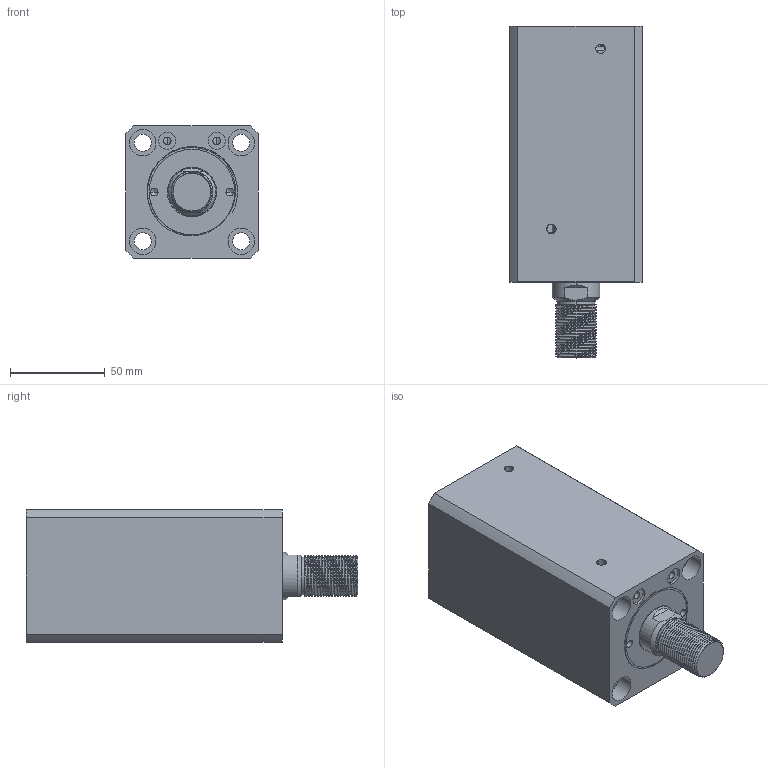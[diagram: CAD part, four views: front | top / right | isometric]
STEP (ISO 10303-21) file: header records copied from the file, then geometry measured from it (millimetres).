
FILE_DESCRIPTION (( 'STEP AP214' ), '1' );
FILE_NAME ('chtb-sdma40x80w_asm.STEP', '2018-06-06T02:20:53', ( 'Windows' ), ( 'Microsoft' ), 'SwSTEP 2.0', 'SolidWorks 2015', '' );
FILE_SCHEMA (( 'AUTOMOTIVE_DESIGN' ));
Length unit declared in the file: millimetre
Products named in the file (4): CHTB-SDMA40X80NBT; CHTB-SD40X80WHSG; chtb-sdma40x80w_asm; CHTB-SD40QG
Assembly tree (3 placements, depth 2):
  chtb-sdma40x80w_asm
    CHTB-SD40X80WHSG
    CHTB-SDMA40X80NBT
    CHTB-SD40QG
Bounding box: 70 x 175 x 70 mm (x, y, z)
Volume: 562656.1 mm3; surface area: 110449 mm2
Topology: 3 solids, 4 shells, 203 faces, 545 edges, 363 vertices
Faces by surface type: cylinder 122, plane 40, bspline 16, torus 14, cone 11
Entity records: 13587 total; most frequent: CARTESIAN_POINT 8658, ORIENTED_EDGE 1078, DIRECTION 914, EDGE_CURVE 539, AXIS2_PLACEMENT_3D 378, VERTEX_POINT 363, EDGE_LOOP 240, ADVANCED_FACE 203
